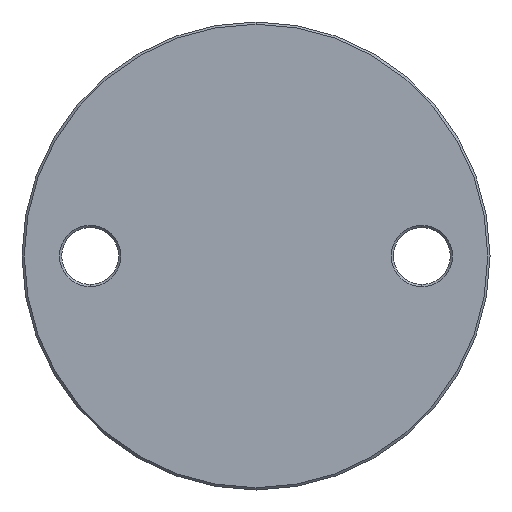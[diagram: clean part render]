
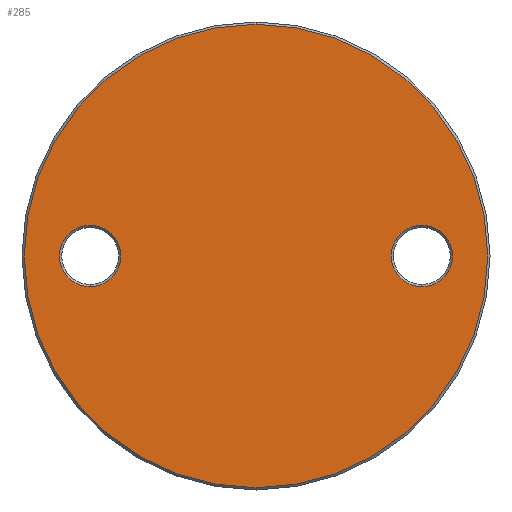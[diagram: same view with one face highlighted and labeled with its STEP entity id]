
A CAD part, front view. The second image highlights one B-rep face of the part: STEP entity #285.
In plain terms, the highlighted planar face has unit normal (0, -1, 0).
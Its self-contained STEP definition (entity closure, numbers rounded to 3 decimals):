
#28 = AXIS2_PLACEMENT_3D ( 'NONE', #7676, #4670, #5918 ) ;
#57 = CIRCLE ( 'NONE', #873, 51. ) ;
#285 = ADVANCED_FACE ( 'NONE', ( #7142, #5065, #6286 ), #6605, .T. ) ;
#333 = VERTEX_POINT ( 'NONE', #543 ) ;
#358 = AXIS2_PLACEMENT_3D ( 'NONE', #5474, #4941, #1291 ) ;
#543 = CARTESIAN_POINT ( 'NONE',  ( -36.5, -3., 6.75 ) ) ;
#626 = CIRCLE ( 'NONE', #28, 6.75 ) ;
#866 = CIRCLE ( 'NONE', #358, 51. ) ;
#873 = AXIS2_PLACEMENT_3D ( 'NONE', #5273, #4022, #5864 ) ;
#1289 = DIRECTION ( 'NONE',  ( 0., 1., 0. ) ) ;
#1291 = DIRECTION ( 'NONE',  ( 0., 0., -1. ) ) ;
#1310 = ORIENTED_EDGE ( 'NONE', *, *, #7470, .T. ) ;
#1916 = DIRECTION ( 'NONE',  ( 0., 0., -1. ) ) ;
#1947 = DIRECTION ( 'NONE',  ( 0., 1., 0. ) ) ;
#1964 = DIRECTION ( 'NONE',  ( 0., 0., -1. ) ) ;
#2164 = AXIS2_PLACEMENT_3D ( 'NONE', #5493, #1289, #1916 ) ;
#2395 = CARTESIAN_POINT ( 'NONE',  ( 0., -3., 51.5 ) ) ;
#2496 = CIRCLE ( 'NONE', #6804, 6.75 ) ;
#2751 = ORIENTED_EDGE ( 'NONE', *, *, #7386, .T. ) ;
#3085 = DIRECTION ( 'NONE',  ( 0., 0., -1. ) ) ;
#3116 = CIRCLE ( 'NONE', #2164, 6.75 ) ;
#3452 = CIRCLE ( 'NONE', #7845, 6.75 ) ;
#3500 = EDGE_CURVE ( 'NONE', #4578, #333, #2496, .T. ) ;
#3510 = EDGE_CURVE ( 'NONE', #4404, #5250, #866, .T. ) ;
#3569 = ORIENTED_EDGE ( 'NONE', *, *, #3996, .T. ) ;
#3618 = DIRECTION ( 'NONE',  ( 0., -1., 0. ) ) ;
#3760 = DIRECTION ( 'NONE',  ( 0., 1., 0. ) ) ;
#3814 = EDGE_LOOP ( 'NONE', ( #5848, #7608 ) ) ;
#3947 = CARTESIAN_POINT ( 'NONE',  ( 36.5, -3., -6.75 ) ) ;
#3989 = CARTESIAN_POINT ( 'NONE',  ( 36.5, -3., 6.75 ) ) ;
#3996 = EDGE_CURVE ( 'NONE', #7312, #4348, #3452, .T. ) ;
#4022 = DIRECTION ( 'NONE',  ( 0., -1., 0. ) ) ;
#4266 = DIRECTION ( 'NONE',  ( 0., 0., -1. ) ) ;
#4348 = VERTEX_POINT ( 'NONE', #3947 ) ;
#4404 = VERTEX_POINT ( 'NONE', #4679 ) ;
#4578 = VERTEX_POINT ( 'NONE', #6338 ) ;
#4670 = DIRECTION ( 'NONE',  ( 0., 1., 0. ) ) ;
#4679 = CARTESIAN_POINT ( 'NONE',  ( 0., -3., 51. ) ) ;
#4855 = EDGE_LOOP ( 'NONE', ( #1310, #3569 ) ) ;
#4941 = DIRECTION ( 'NONE',  ( 0., -1., 0. ) ) ;
#5065 = FACE_BOUND ( 'NONE', #3814, .T. ) ;
#5250 = VERTEX_POINT ( 'NONE', #6154 ) ;
#5273 = CARTESIAN_POINT ( 'NONE',  ( 0., -3., 0. ) ) ;
#5381 = AXIS2_PLACEMENT_3D ( 'NONE', #2395, #3618, #4266 ) ;
#5474 = CARTESIAN_POINT ( 'NONE',  ( 0., -3., 0. ) ) ;
#5493 = CARTESIAN_POINT ( 'NONE',  ( -36.5, -3., 0. ) ) ;
#5513 = CARTESIAN_POINT ( 'NONE',  ( 36.5, -3., 0. ) ) ;
#5848 = ORIENTED_EDGE ( 'NONE', *, *, #3500, .T. ) ;
#5864 = DIRECTION ( 'NONE',  ( 0., 0., -1. ) ) ;
#5918 = DIRECTION ( 'NONE',  ( 0., 0., -1. ) ) ;
#5989 = ORIENTED_EDGE ( 'NONE', *, *, #3510, .T. ) ;
#6154 = CARTESIAN_POINT ( 'NONE',  ( 0., -3., -51. ) ) ;
#6286 = FACE_OUTER_BOUND ( 'NONE', #6638, .T. ) ;
#6338 = CARTESIAN_POINT ( 'NONE',  ( -36.5, -3., -6.75 ) ) ;
#6383 = EDGE_CURVE ( 'NONE', #333, #4578, #3116, .T. ) ;
#6605 = PLANE ( 'NONE',  #5381 ) ;
#6638 = EDGE_LOOP ( 'NONE', ( #5989, #2751 ) ) ;
#6804 = AXIS2_PLACEMENT_3D ( 'NONE', #7317, #1947, #3085 ) ;
#7142 = FACE_BOUND ( 'NONE', #4855, .T. ) ;
#7312 = VERTEX_POINT ( 'NONE', #3989 ) ;
#7317 = CARTESIAN_POINT ( 'NONE',  ( -36.5, -3., 0. ) ) ;
#7386 = EDGE_CURVE ( 'NONE', #5250, #4404, #57, .T. ) ;
#7470 = EDGE_CURVE ( 'NONE', #4348, #7312, #626, .T. ) ;
#7608 = ORIENTED_EDGE ( 'NONE', *, *, #6383, .T. ) ;
#7676 = CARTESIAN_POINT ( 'NONE',  ( 36.5, -3., 0. ) ) ;
#7845 = AXIS2_PLACEMENT_3D ( 'NONE', #5513, #3760, #1964 ) ;
